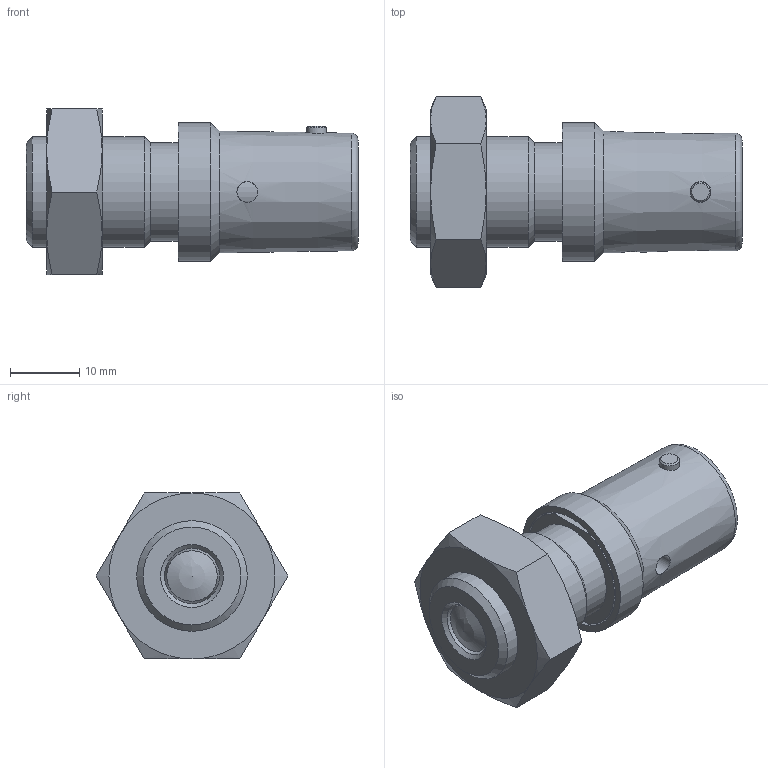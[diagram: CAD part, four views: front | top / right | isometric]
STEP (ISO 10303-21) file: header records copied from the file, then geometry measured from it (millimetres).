
FILE_DESCRIPTION( ( 'STEP AP203' ), '1' );
FILE_NAME( 'C:/Temp/Ganter_Step_05_03_2020/data/3_1/gn816/gn_816_bk/Locking plunger GN 816-8-M16x1,5-BK (activated).stp', '2020-03-12T08:56:03', ( 'License CC BY-ND 4.0' ), ( 'CADENAS' ), ' ', 'PARTsolutions', ' ' );
FILE_SCHEMA( ( 'CONFIG_CONTROL_DESIGN' ) );
Length unit declared in the file: millimetre
Products named in the file (4): Locking plunger GN 816-8-M16x1,5-BK (activated); _GN 816-8-M16x1,5-B(1)-b2; _GN 816-8-M16x1,5-Bb1; _Lock nut ISO 8675 GN 816-8-M16x1,5-AK
Assembly tree (3 placements, depth 2):
  Locking plunger GN 816-8-M16x1,5-BK (activated)
    _GN 816-8-M16x1,5-B(1)-b2
    _GN 816-8-M16x1,5-Bb1
    _Lock nut ISO 8675 GN 816-8-M16x1,5-AK
Bounding box: 48 x 27.71 x 24 mm (x, y, z)
Volume: 12056.5 mm3; surface area: 7774.2 mm2
Topology: 3 solids, 3 shells, 63 faces, 128 edges, 77 vertices
Faces by surface type: cone 25, plane 20, cylinder 15, torus 2, sphere 1
Full cylindrical faces by diameter (mm): 2.9 x2, 3 x2, 7 x1, 8 x2, 11.1 x1, 14.2 x1, 14.376 x1, 16 x1, 18 x1, 20 x1
Entity records: 1997 total; most frequent: CARTESIAN_POINT 696, DIRECTION 246, ORIENTED_EDGE 188, AXIS2_PLACEMENT_3D 117, EDGE_LOOP 106, EDGE_CURVE 94, FACE_OUTER_BOUND 78, VERTEX_POINT 73
